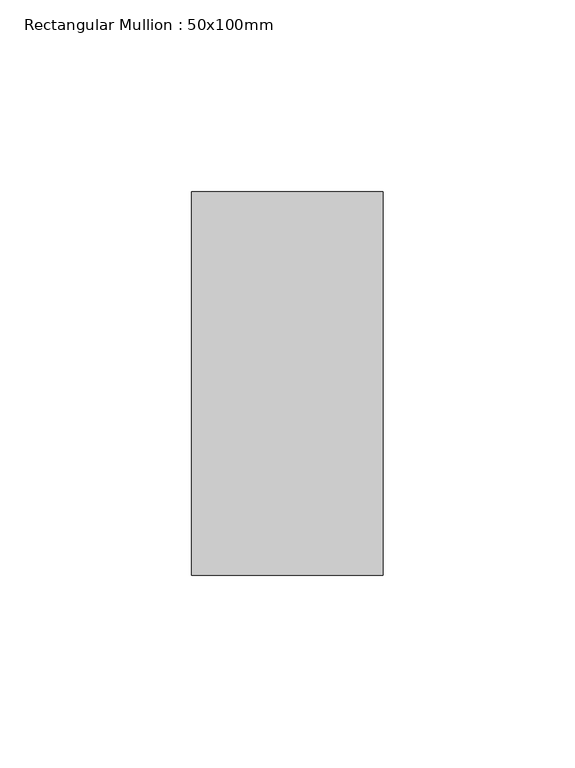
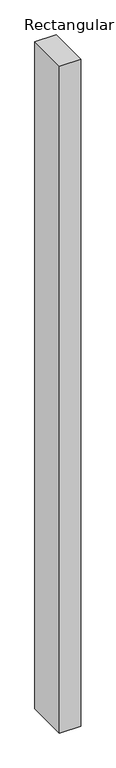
"""IFC4 building model written with IfcOpenShell, lengths in millimetres: member geometry, Rectangular Mullion : 50x100mm."""

from ifc_helpers import new_model, si_unit, frame, origin, place, context, project, spatial, polyline, outline, extrude, source, transform, mapped, element, save


def rectangular_mullion_50x100mm_279d3f9a(model_context):
    return source(origin(), model_context, "Body", "SweptSolid", [
        extrude(outline(polyline([(0.0, 50.0), (0.0, -50.0), (-50.0, -50.0), (-50.0, 50.0), (0.0, 50.0)])), frame((0.0, 0.0, -1661.0564459), z_axis=(0.0, 0.0, 1.0), x_axis=(1.0, 0.0, 0.0)), (0.0, 0.0, 1.0), 1661.0564459),
    ])


if __name__ == "__main__":
    model = new_model("IFC4")
    model_context = context("Model", 3, world=origin())
    ifc_project = project(units=[si_unit("LENGTHUNIT", "METRE", prefix="MILLI")], contexts=[model_context])
    site = spatial("IfcSite", under=ifc_project)
    building = spatial("IfcBuilding", under=site)
    placement = place(None, origin())
    rectangular_mullion_50x100mm_shape = rectangular_mullion_50x100mm_279d3f9a(model_context)
    element("IfcMember", 1, ObjectType="Rectangular Mullion : 50x100mm", at=placement, inside=building, context=model_context, shape_type="MappedRepresentation", body=[
        mapped(rectangular_mullion_50x100mm_shape, transform((0.0, 0.0, 0.0), x_axis=(1.0, 0.0, 0.0), y_axis=(0.0, 1.0, 0.0), z_axis=(0.0, 0.0, 1.0))),
    ])
    save(model, "model.ifc")
